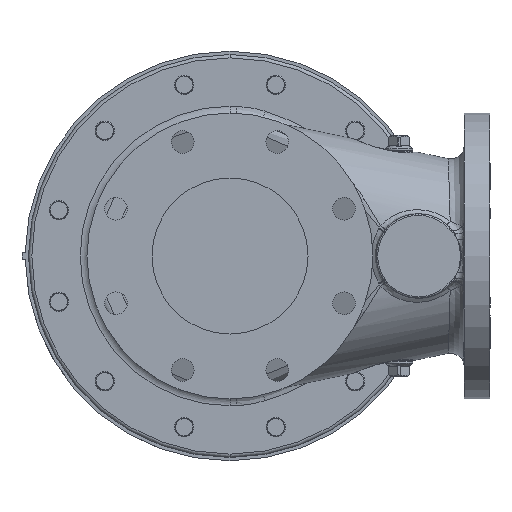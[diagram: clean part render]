
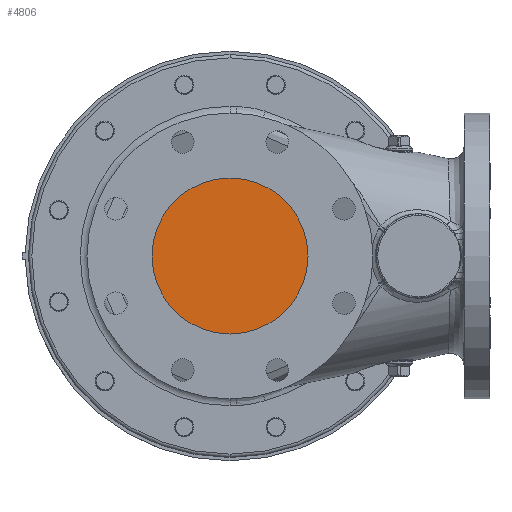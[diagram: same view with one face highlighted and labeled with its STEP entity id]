
A CAD part, front view. The second image highlights one B-rep face of the part: STEP entity #4806.
In plain terms, the highlighted planar face has unit normal (0, -1, 0).
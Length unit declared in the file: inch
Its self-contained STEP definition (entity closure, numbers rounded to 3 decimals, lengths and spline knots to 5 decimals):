
#963 = AXIS2_PLACEMENT_3D ( 'NONE', #5229, #21038, #7501 ) ;
#3172 = VERTEX_POINT ( 'NONE', #24861 ) ;
#4806 = ADVANCED_FACE ( 'NONE', ( #10311 ), #21879, .T. ) ;
#5229 = CARTESIAN_POINT ( 'NONE',  ( 0., -9.13, 0. ) ) ;
#7501 = DIRECTION ( 'NONE',  ( 0., 0., -1. ) ) ;
#8377 = DIRECTION ( 'NONE',  ( 0., -1., 0. ) ) ;
#8586 = ORIENTED_EDGE ( 'NONE', *, *, #23840, .T. ) ;
#9328 = ORIENTED_EDGE ( 'NONE', *, *, #15214, .T. ) ;
#10311 = FACE_OUTER_BOUND ( 'NONE', #14541, .T. ) ;
#10314 = CIRCLE ( 'NONE', #963, 3. ) ;
#12212 = CARTESIAN_POINT ( 'NONE',  ( 0., -9.13, 0. ) ) ;
#14466 = DIRECTION ( 'NONE',  ( 0., 0., -1. ) ) ;
#14469 = AXIS2_PLACEMENT_3D ( 'NONE', #24026, #8377, #24124 ) ;
#14541 = EDGE_LOOP ( 'NONE', ( #9328, #8586 ) ) ;
#15214 = EDGE_CURVE ( 'NONE', #19523, #3172, #10314, .T. ) ;
#16446 = CARTESIAN_POINT ( 'NONE',  ( 0., -9.13, -3. ) ) ;
#19523 = VERTEX_POINT ( 'NONE', #16446 ) ;
#21038 = DIRECTION ( 'NONE',  ( 0., -1., 0. ) ) ;
#21879 = PLANE ( 'NONE',  #14469 ) ;
#23414 = CIRCLE ( 'NONE', #25394, 3. ) ;
#23840 = EDGE_CURVE ( 'NONE', #3172, #19523, #23414, .T. ) ;
#24026 = CARTESIAN_POINT ( 'NONE',  ( 0., -9.13, 0. ) ) ;
#24124 = DIRECTION ( 'NONE',  ( 0., 0., -1. ) ) ;
#24861 = CARTESIAN_POINT ( 'NONE',  ( 0., -9.13, 3. ) ) ;
#25394 = AXIS2_PLACEMENT_3D ( 'NONE', #12212, #27897, #14466 ) ;
#27897 = DIRECTION ( 'NONE',  ( 0., -1., 0. ) ) ;
